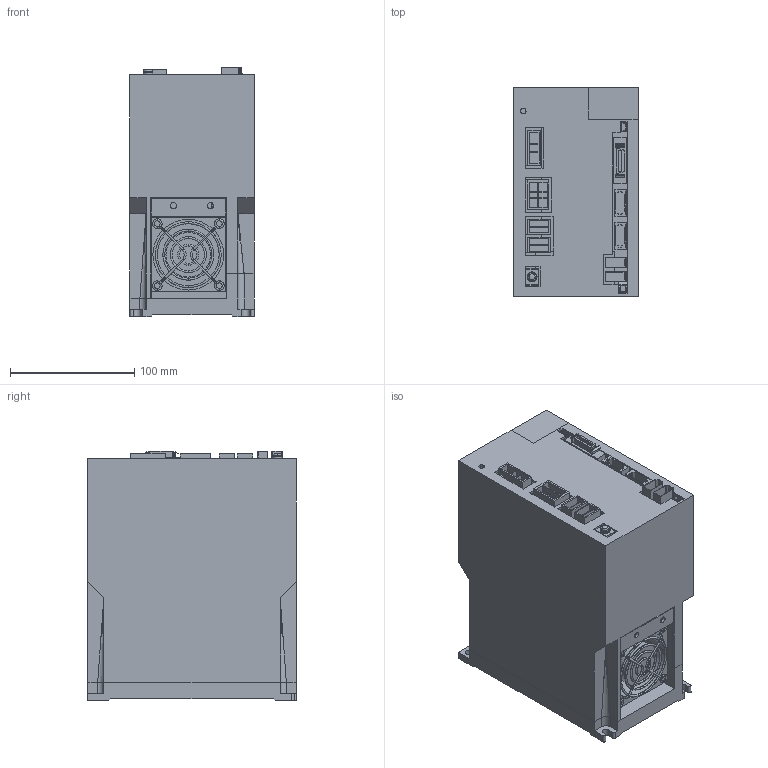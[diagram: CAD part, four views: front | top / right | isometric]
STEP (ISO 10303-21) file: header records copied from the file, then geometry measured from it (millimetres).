
FILE_DESCRIPTION (( 'STEP AP203' ), '1' );
FILE_NAME ('mr-j3w-77b_a.step', '2009-12-02T00:27:50', ( ' ' ), ( '' ), 'SwSTEP 2.0', 'SolidWorks 2006303', '' );
FILE_SCHEMA (( 'CONFIG_CONTROL_DESIGN' ));
Length unit declared in the file: millimetre
Products named in the file (16): SW-PW-P-NA-M4X8__; J3W-CNP2__; FAN60__; mr-j3w-77b_a; J3-LENZ__; J3W-77B-CASE__; J3WB-CN1__; J3W-77B-CHASSIS__; FAN60-FG__; J3W-CNP3__; J3W-PE__; J3WB-CN5__; J3W-CNP1__; J3WB-CN4__; J3WB-CN2__; J3WB-CN3__
Assembly tree (18 placements, depth 2):
  mr-j3w-77b_a
    J3WB-CN2__  x2
    J3W-CNP2__
    FAN60__
    J3WB-CN4__
    J3W-77B-CASE__
    J3WB-CN5__
    J3WB-CN3__
    J3W-CNP3__  x2
    J3WB-CN1__  x2
    J3W-CNP1__
    FAN60-FG__
    J3W-77B-CHASSIS__
    J3W-PE__
    J3-LENZ__
    SW-PW-P-NA-M4X8__
Bounding box: 100 x 168 x 201 mm (x, y, z)
Volume: 782687.5 mm3; surface area: 311810.5 mm2
Topology: 25 solids, 25 shells, 567 faces, 1527 edges, 1004 vertices
Faces by surface type: plane 415, cylinder 83, bspline 55, cone 14
Entity records: 19120 total; most frequent: CARTESIAN_POINT 4734, ORIENTED_EDGE 2708, DIRECTION 2494, EDGE_CURVE 1354, VECTOR 1014, LINE 1014, VERTEX_POINT 892, AXIS2_PLACEMENT_3D 740
